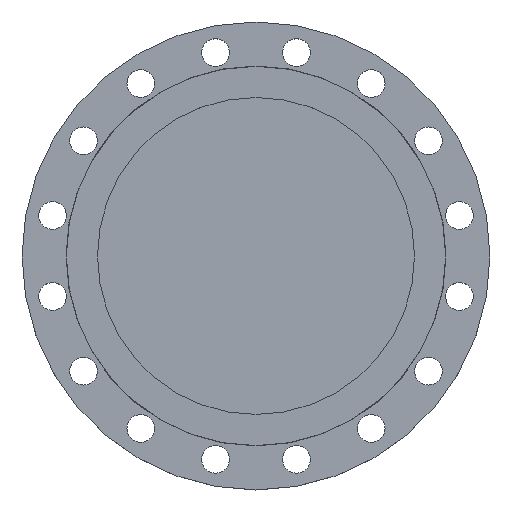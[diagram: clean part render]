
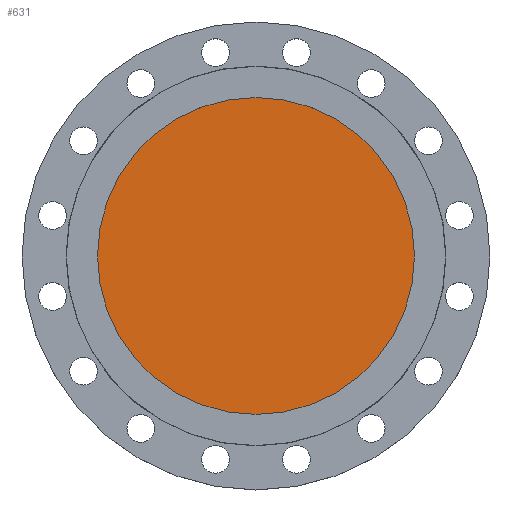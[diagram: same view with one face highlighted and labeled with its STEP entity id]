
A CAD part, top view. The second image highlights one B-rep face of the part: STEP entity #631.
In plain terms, the highlighted planar face has unit normal (0, 0, 1).
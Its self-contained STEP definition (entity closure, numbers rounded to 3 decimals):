
#132 = AXIS2_PLACEMENT_3D ( 'NONE', #647, #646, #645 ) ;
#167 = EDGE_CURVE ( 'NONE', #1318, #1305, #1233, .T. ) ;
#169 = DIRECTION ( 'NONE',  ( -1., 0., 0. ) ) ;
#170 = DIRECTION ( 'NONE',  ( 0., 0., -1. ) ) ;
#171 = CARTESIAN_POINT ( 'NONE',  ( 0., 0., -5.5 ) ) ;
#328 = CARTESIAN_POINT ( 'NONE',  ( -223.5, 0., -5.5 ) ) ;
#341 = CARTESIAN_POINT ( 'NONE',  ( 223.5, 0., -5.5 ) ) ;
#631 = ADVANCED_FACE ( 'NONE', ( #650 ), #649, .T. ) ;
#645 = DIRECTION ( 'NONE',  ( 1., 0., 0. ) ) ;
#646 = DIRECTION ( 'NONE',  ( 0., 0., 1. ) ) ;
#647 = CARTESIAN_POINT ( 'NONE',  ( 0., 0., -5.5 ) ) ;
#649 = PLANE ( 'NONE',  #132 ) ;
#650 = FACE_OUTER_BOUND ( 'NONE', #1417, .T. ) ;
#891 = DIRECTION ( 'NONE',  ( -1., 0., 0. ) ) ;
#893 = DIRECTION ( 'NONE',  ( 0., 0., -1. ) ) ;
#894 = CARTESIAN_POINT ( 'NONE',  ( 0., 0., -5.5 ) ) ;
#1153 = ORIENTED_EDGE ( 'NONE', *, *, #1534, .F. ) ;
#1199 = ORIENTED_EDGE ( 'NONE', *, *, #167, .F. ) ;
#1233 = CIRCLE ( 'NONE', #1511, 223.5 ) ;
#1305 = VERTEX_POINT ( 'NONE', #341 ) ;
#1318 = VERTEX_POINT ( 'NONE', #328 ) ;
#1417 = EDGE_LOOP ( 'NONE', ( #1199, #1153 ) ) ;
#1510 = CIRCLE ( 'NONE', #1570, 223.5 ) ;
#1511 = AXIS2_PLACEMENT_3D ( 'NONE', #894, #893, #891 ) ;
#1534 = EDGE_CURVE ( 'NONE', #1305, #1318, #1510, .T. ) ;
#1570 = AXIS2_PLACEMENT_3D ( 'NONE', #171, #170, #169 ) ;
